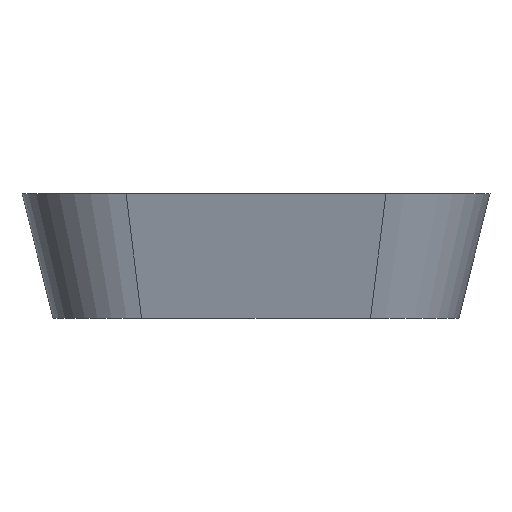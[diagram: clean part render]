
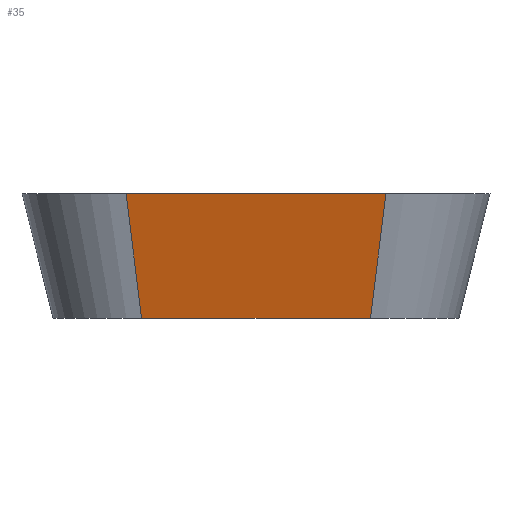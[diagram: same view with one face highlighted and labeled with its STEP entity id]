
A CAD part, left-side view. The second image highlights one B-rep face of the part: STEP entity #35.
In plain terms, the highlighted free-form (B-spline) face has degree [1, 1] with [2, 2] control points.
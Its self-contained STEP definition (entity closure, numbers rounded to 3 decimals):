
#35 = ADVANCED_FACE('',(#36),#50,.T.);
#36 = FACE_BOUND('',#37,.T.);
#37 = EDGE_LOOP('',(#38,#72,#113,#141));
#38 = ORIENTED_EDGE('',*,*,#39,.F.);
#39 = EDGE_CURVE('',#40,#42,#44,.T.);
#40 = VERTEX_POINT('',#41);
#41 = CARTESIAN_POINT('',(-31.,-11.,0.));
#42 = VERTEX_POINT('',#43);
#43 = CARTESIAN_POINT('',(-31.,11.,0.));
#44 = SURFACE_CURVE('',#45,(#49,#60),.PCURVE_S1.);
#45 = LINE('',#46,#47);
#46 = CARTESIAN_POINT('',(-31.,0.,0.));
#47 = VECTOR('',#48,1.);
#48 = DIRECTION('',(0.,1.,0.));
#49 = PCURVE('',#50,#55);
#50 = B_SPLINE_SURFACE_WITH_KNOTS('',1,1,(
    (#51,#52)
    ,(#53,#54
    )),.UNSPECIFIED.,.F.,.F.,.F.,(2,2),(2,2),(-12.5,12.5),(0.,
    1.),.PIECEWISE_BEZIER_KNOTS.);
#51 = CARTESIAN_POINT('',(-31.,11.,0.));
#52 = CARTESIAN_POINT('',(-34.,12.5,12.));
#53 = CARTESIAN_POINT('',(-31.,-11.,0.));
#54 = CARTESIAN_POINT('',(-34.,-12.5,12.));
#55 = DEFINITIONAL_REPRESENTATION('',(#56),#59);
#56 = B_SPLINE_CURVE_WITH_KNOTS('',1,(#57,#58),.UNSPECIFIED.,.F.,.F.,(2,
    2),(-11.,11.),.PIECEWISE_BEZIER_KNOTS.);
#57 = CARTESIAN_POINT('',(12.5,0.));
#58 = CARTESIAN_POINT('',(-12.5,0.));
#59 = ( GEOMETRIC_REPRESENTATION_CONTEXT(2) 
PARAMETRIC_REPRESENTATION_CONTEXT() REPRESENTATION_CONTEXT('2D SPACE',''
  ) );
#60 = PCURVE('',#61,#66);
#61 = PLANE('',#62);
#62 = AXIS2_PLACEMENT_3D('',#63,#64,#65);
#63 = CARTESIAN_POINT('',(-22.5,-11.,0.));
#64 = DIRECTION('',(0.,0.,1.));
#65 = DIRECTION('',(1.,0.,0.));
#66 = DEFINITIONAL_REPRESENTATION('',(#67),#71);
#67 = LINE('',#68,#69);
#68 = CARTESIAN_POINT('',(-8.5,11.));
#69 = VECTOR('',#70,1.);
#70 = DIRECTION('',(0.,1.));
#71 = ( GEOMETRIC_REPRESENTATION_CONTEXT(2) 
PARAMETRIC_REPRESENTATION_CONTEXT() REPRESENTATION_CONTEXT('2D SPACE',''
  ) );
#72 = ORIENTED_EDGE('',*,*,#73,.T.);
#73 = EDGE_CURVE('',#40,#74,#76,.T.);
#74 = VERTEX_POINT('',#75);
#75 = CARTESIAN_POINT('',(-34.,-12.5,12.));
#76 = SURFACE_CURVE('',#77,(#80,#87),.PCURVE_S1.);
#77 = B_SPLINE_CURVE_WITH_KNOTS('',1,(#78,#79),.UNSPECIFIED.,.F.,.F.,(2,
    2),(0.,1.),.PIECEWISE_BEZIER_KNOTS.);
#78 = CARTESIAN_POINT('',(-31.,-11.,0.));
#79 = CARTESIAN_POINT('',(-34.,-12.5,12.));
#80 = PCURVE('',#50,#81);
#81 = DEFINITIONAL_REPRESENTATION('',(#82),#86);
#82 = LINE('',#83,#84);
#83 = CARTESIAN_POINT('',(12.5,0.));
#84 = VECTOR('',#85,1.);
#85 = DIRECTION('',(0.,1.));
#86 = ( GEOMETRIC_REPRESENTATION_CONTEXT(2) 
PARAMETRIC_REPRESENTATION_CONTEXT() REPRESENTATION_CONTEXT('2D SPACE',''
  ) );
#87 = PCURVE('',#88,#107);
#88 = B_SPLINE_SURFACE_WITH_KNOTS('',8,1,(
    (#89,#90)
    ,(#91,#92)
    ,(#93,#94)
    ,(#95,#96)
    ,(#97,#98)
    ,(#99,#100)
    ,(#101,#102)
    ,(#103,#104)
    ,(#105,#106
    )),.UNSPECIFIED.,.F.,.F.,.F.,(9,9),(2,2),(3.142,
    4.712),(0.,1.),.PIECEWISE_BEZIER_KNOTS.);
#89 = CARTESIAN_POINT('',(-31.,-11.,0.));
#90 = CARTESIAN_POINT('',(-34.,-12.5,12.));
#91 = CARTESIAN_POINT('',(-31.,-12.669,0.));
#92 = CARTESIAN_POINT('',(-34.,-14.463,12.));
#93 = CARTESIAN_POINT('',(-30.625,-14.338,0.));
#94 = CARTESIAN_POINT('',(-33.559,-16.427,12.));
#95 = CARTESIAN_POINT('',(-29.876,-15.909,0.));
#96 = CARTESIAN_POINT('',(-32.678,-18.275,
    12.));
#97 = CARTESIAN_POINT('',(-28.784,-17.284,0.));
#98 = CARTESIAN_POINT('',(-31.393,-19.893,12.
    ));
#99 = CARTESIAN_POINT('',(-27.409,-18.376,0.));
#100 = CARTESIAN_POINT('',(-29.775,-21.178,
    12.));
#101 = CARTESIAN_POINT('',(-25.838,-19.125,0.));
#102 = CARTESIAN_POINT('',(-27.927,-22.059,12.));
#103 = CARTESIAN_POINT('',(-24.169,-19.5,0.));
#104 = CARTESIAN_POINT('',(-25.963,-22.5,12.));
#105 = CARTESIAN_POINT('',(-22.5,-19.5,0.));
#106 = CARTESIAN_POINT('',(-24.,-22.5,12.));
#107 = DEFINITIONAL_REPRESENTATION('',(#108),#112);
#108 = LINE('',#109,#110);
#109 = CARTESIAN_POINT('',(3.142,0.));
#110 = VECTOR('',#111,1.);
#111 = DIRECTION('',(0.,1.));
#112 = ( GEOMETRIC_REPRESENTATION_CONTEXT(2) 
PARAMETRIC_REPRESENTATION_CONTEXT() REPRESENTATION_CONTEXT('2D SPACE',''
  ) );
#113 = ORIENTED_EDGE('',*,*,#114,.T.);
#114 = EDGE_CURVE('',#74,#115,#117,.T.);
#115 = VERTEX_POINT('',#116);
#116 = CARTESIAN_POINT('',(-34.,12.5,12.));
#117 = SURFACE_CURVE('',#118,(#122,#129),.PCURVE_S1.);
#118 = LINE('',#119,#120);
#119 = CARTESIAN_POINT('',(-34.,0.,12.));
#120 = VECTOR('',#121,1.);
#121 = DIRECTION('',(0.,1.,0.));
#122 = PCURVE('',#50,#123);
#123 = DEFINITIONAL_REPRESENTATION('',(#124),#128);
#124 = LINE('',#125,#126);
#125 = CARTESIAN_POINT('',(0.,1.));
#126 = VECTOR('',#127,1.);
#127 = DIRECTION('',(-1.,0.));
#128 = ( GEOMETRIC_REPRESENTATION_CONTEXT(2) 
PARAMETRIC_REPRESENTATION_CONTEXT() REPRESENTATION_CONTEXT('2D SPACE',''
  ) );
#129 = PCURVE('',#130,#135);
#130 = PLANE('',#131);
#131 = AXIS2_PLACEMENT_3D('',#132,#133,#134);
#132 = CARTESIAN_POINT('',(-24.,-12.5,12.));
#133 = DIRECTION('',(0.,0.,1.));
#134 = DIRECTION('',(1.,0.,0.));
#135 = DEFINITIONAL_REPRESENTATION('',(#136),#140);
#136 = LINE('',#137,#138);
#137 = CARTESIAN_POINT('',(-10.,12.5));
#138 = VECTOR('',#139,1.);
#139 = DIRECTION('',(0.,1.));
#140 = ( GEOMETRIC_REPRESENTATION_CONTEXT(2) 
PARAMETRIC_REPRESENTATION_CONTEXT() REPRESENTATION_CONTEXT('2D SPACE',''
  ) );
#141 = ORIENTED_EDGE('',*,*,#142,.F.);
#142 = EDGE_CURVE('',#42,#115,#143,.T.);
#143 = SURFACE_CURVE('',#144,(#147,#154),.PCURVE_S1.);
#144 = B_SPLINE_CURVE_WITH_KNOTS('',1,(#145,#146),.UNSPECIFIED.,.F.,.F.,
  (2,2),(0.,1.),.PIECEWISE_BEZIER_KNOTS.);
#145 = CARTESIAN_POINT('',(-31.,11.,0.));
#146 = CARTESIAN_POINT('',(-34.,12.5,12.));
#147 = PCURVE('',#50,#148);
#148 = DEFINITIONAL_REPRESENTATION('',(#149),#153);
#149 = LINE('',#150,#151);
#150 = CARTESIAN_POINT('',(-12.5,0.));
#151 = VECTOR('',#152,1.);
#152 = DIRECTION('',(0.,1.));
#153 = ( GEOMETRIC_REPRESENTATION_CONTEXT(2) 
PARAMETRIC_REPRESENTATION_CONTEXT() REPRESENTATION_CONTEXT('2D SPACE',''
  ) );
#154 = PCURVE('',#155,#174);
#155 = B_SPLINE_SURFACE_WITH_KNOTS('',8,1,(
    (#156,#157)
    ,(#158,#159)
    ,(#160,#161)
    ,(#162,#163)
    ,(#164,#165)
    ,(#166,#167)
    ,(#168,#169)
    ,(#170,#171)
    ,(#172,#173
    )),.UNSPECIFIED.,.F.,.F.,.F.,(9,9),(2,2),(1.571,
    3.142),(0.,1.),.PIECEWISE_BEZIER_KNOTS.);
#156 = CARTESIAN_POINT('',(-22.5,19.5,0.));
#157 = CARTESIAN_POINT('',(-24.,22.5,12.));
#158 = CARTESIAN_POINT('',(-24.169,19.5,0.));
#159 = CARTESIAN_POINT('',(-25.963,22.5,12.));
#160 = CARTESIAN_POINT('',(-25.838,19.125,0.));
#161 = CARTESIAN_POINT('',(-27.927,22.059,12.));
#162 = CARTESIAN_POINT('',(-27.409,18.376,0.));
#163 = CARTESIAN_POINT('',(-29.775,21.178,
    12.));
#164 = CARTESIAN_POINT('',(-28.784,17.284,0.));
#165 = CARTESIAN_POINT('',(-31.393,19.893,
    12.));
#166 = CARTESIAN_POINT('',(-29.876,15.909,0.));
#167 = CARTESIAN_POINT('',(-32.678,18.275,
    12.));
#168 = CARTESIAN_POINT('',(-30.625,14.338,0.));
#169 = CARTESIAN_POINT('',(-33.559,16.427,12.));
#170 = CARTESIAN_POINT('',(-31.,12.669,0.));
#171 = CARTESIAN_POINT('',(-34.,14.463,12.));
#172 = CARTESIAN_POINT('',(-31.,11.,0.));
#173 = CARTESIAN_POINT('',(-34.,12.5,12.));
#174 = DEFINITIONAL_REPRESENTATION('',(#175),#179);
#175 = LINE('',#176,#177);
#176 = CARTESIAN_POINT('',(3.142,0.));
#177 = VECTOR('',#178,1.);
#178 = DIRECTION('',(0.,1.));
#179 = ( GEOMETRIC_REPRESENTATION_CONTEXT(2) 
PARAMETRIC_REPRESENTATION_CONTEXT() REPRESENTATION_CONTEXT('2D SPACE',''
  ) );
